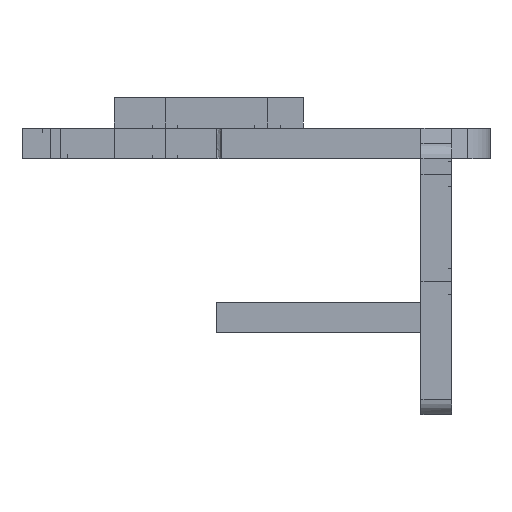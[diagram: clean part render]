
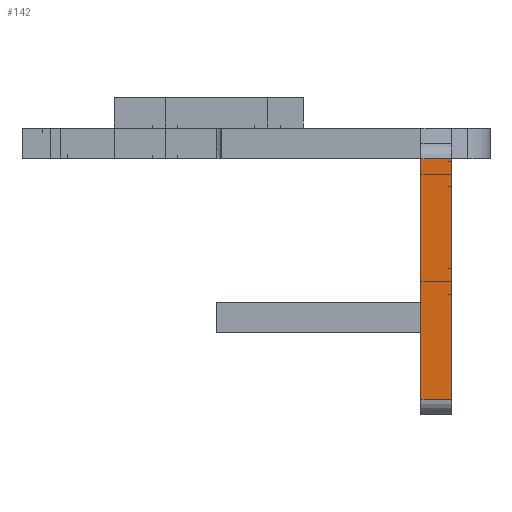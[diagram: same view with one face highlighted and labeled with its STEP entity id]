
A CAD part, left-side view. The second image highlights one B-rep face of the part: STEP entity #142.
In plain terms, the highlighted free-form (B-spline) face has degree [2, 1] with [3, 2] control points.
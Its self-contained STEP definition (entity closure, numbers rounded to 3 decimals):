
#142=ADVANCED_FACE('',(#256),#4215,.T.);
#256=FACE_OUTER_BOUND('',#378,.T.);
#378=EDGE_LOOP('',(#624,#625,#626,#627));
#624=ORIENTED_EDGE('',*,*,#3320,.T.);
#625=ORIENTED_EDGE('',*,*,#3321,.T.);
#626=ORIENTED_EDGE('',*,*,#3322,.T.);
#627=ORIENTED_EDGE('',*,*,#3317,.F.);
#1245=PCURVE('',#4214,#1869);
#1248=PCURVE('',#4215,#1872);
#1249=PCURVE('',#4215,#1873);
#1250=PCURVE('',#4215,#1874);
#1251=PCURVE('',#4215,#1875);
#1255=PCURVE('',#4216,#1879);
#1303=PCURVE('',#4160,#1927);
#1314=PCURVE('',#4161,#1938);
#1869=DEFINITIONAL_REPRESENTATION('',(#2459),#8322);
#1872=DEFINITIONAL_REPRESENTATION('',(#2462),#8322);
#1873=DEFINITIONAL_REPRESENTATION('',(#2463),#8322);
#1874=DEFINITIONAL_REPRESENTATION('',(#2464),#8322);
#1875=DEFINITIONAL_REPRESENTATION('',(#2465),#8322);
#1879=DEFINITIONAL_REPRESENTATION('',(#2469),#8322);
#1927=DEFINITIONAL_REPRESENTATION('',(#3712),#8322);
#1938=DEFINITIONAL_REPRESENTATION('',(#3727),#8322);
#2459=B_SPLINE_CURVE_WITH_KNOTS('',1,(#5289,#5290),.UNSPECIFIED.,.F.,.F.,
(2,2),(0.,6.),.UNSPECIFIED.);
#2462=B_SPLINE_CURVE_WITH_KNOTS('',1,(#5303,#5304),.UNSPECIFIED.,.F.,.F.,
(2,2),(-147.162,-117.898),.UNSPECIFIED.);
#2463=B_SPLINE_CURVE_WITH_KNOTS('',1,(#5307,#5308),.UNSPECIFIED.,.F.,.F.,
(2,2),(0.,6.),.UNSPECIFIED.);
#2464=B_SPLINE_CURVE_WITH_KNOTS('',1,(#5312,#5313),.UNSPECIFIED.,.F.,.F.,
(2,2),(117.898,147.162),.UNSPECIFIED.);
#2465=B_SPLINE_CURVE_WITH_KNOTS('',1,(#5314,#5315),.UNSPECIFIED.,.F.,.F.,
(2,2),(0.,6.),.UNSPECIFIED.);
#2469=B_SPLINE_CURVE_WITH_KNOTS('',1,(#5330,#5331),.UNSPECIFIED.,.F.,.F.,
(2,2),(0.,6.),.UNSPECIFIED.);
#3005=SURFACE_CURVE('',#3663,(#1245,#1251),.PCURVE_S1.);
#3008=SURFACE_CURVE('',#3666,(#1248,#1303),.PCURVE_S1.);
#3009=SURFACE_CURVE('',#3667,(#1249,#1255),.PCURVE_S1.);
#3010=SURFACE_CURVE('',#3668,(#1250,#1314),.PCURVE_S1.);
#3317=EDGE_CURVE('',#3985,#3986,#3005,.T.);
#3320=EDGE_CURVE('',#3985,#3988,#3008,.T.);
#3321=EDGE_CURVE('',#3988,#3989,#3009,.T.);
#3322=EDGE_CURVE('',#3989,#3986,#3010,.T.);
#3663=(
BOUNDED_CURVE()
B_SPLINE_CURVE(1,(#5287,#5288),.UNSPECIFIED.,.F.,.F.)
B_SPLINE_CURVE_WITH_KNOTS((2,2),(0.,6.),.UNSPECIFIED.)
CURVE()
GEOMETRIC_REPRESENTATION_ITEM()
RATIONAL_B_SPLINE_CURVE((1.,1.))
REPRESENTATION_ITEM('')
);
#3666=(
BOUNDED_CURVE()
B_SPLINE_CURVE(2,(#5300,#5301,#5302),.UNSPECIFIED.,.F.,.F.)
B_SPLINE_CURVE_WITH_KNOTS((3,3),(-147.162,-117.898),
 .UNSPECIFIED.)
CURVE()
GEOMETRIC_REPRESENTATION_ITEM()
RATIONAL_B_SPLINE_CURVE((1.,1.,1.))
REPRESENTATION_ITEM('')
);
#3667=(
BOUNDED_CURVE()
B_SPLINE_CURVE(1,(#5305,#5306),.UNSPECIFIED.,.F.,.F.)
B_SPLINE_CURVE_WITH_KNOTS((2,2),(0.,6.),.UNSPECIFIED.)
CURVE()
GEOMETRIC_REPRESENTATION_ITEM()
RATIONAL_B_SPLINE_CURVE((1.,1.))
REPRESENTATION_ITEM('')
);
#3668=(
BOUNDED_CURVE()
B_SPLINE_CURVE(2,(#5309,#5310,#5311),.UNSPECIFIED.,.F.,.F.)
B_SPLINE_CURVE_WITH_KNOTS((3,3),(117.898,147.162),
 .UNSPECIFIED.)
CURVE()
GEOMETRIC_REPRESENTATION_ITEM()
RATIONAL_B_SPLINE_CURVE((1.,1.,1.))
REPRESENTATION_ITEM('')
);
#3712=(
BOUNDED_CURVE()
B_SPLINE_CURVE(2,(#5535,#5536,#5537),.UNSPECIFIED.,.F.,.F.)
B_SPLINE_CURVE_WITH_KNOTS((3,3),(-147.162,-117.898),
 .UNSPECIFIED.)
CURVE()
GEOMETRIC_REPRESENTATION_ITEM()
RATIONAL_B_SPLINE_CURVE((1.,1.,1.))
REPRESENTATION_ITEM('')
);
#3727=(
BOUNDED_CURVE()
B_SPLINE_CURVE(2,(#5604,#5605,#5606),.UNSPECIFIED.,.F.,.F.)
B_SPLINE_CURVE_WITH_KNOTS((3,3),(117.898,147.162),
 .UNSPECIFIED.)
CURVE()
GEOMETRIC_REPRESENTATION_ITEM()
RATIONAL_B_SPLINE_CURVE((1.,1.,1.))
REPRESENTATION_ITEM('')
);
#3985=VERTEX_POINT('',#5249);
#3986=VERTEX_POINT('',#5250);
#3988=VERTEX_POINT('',#5252);
#3989=VERTEX_POINT('',#5253);
#4160=PLANE('',#4294);
#4161=PLANE('',#4295);
#4214=(
BOUNDED_SURFACE()
B_SPLINE_SURFACE(2,1,((#5048,#5049),(#5050,#5051),(#5052,#5053)),
 .UNSPECIFIED.,.F.,.F.,.F.)
B_SPLINE_SURFACE_WITH_KNOTS((3,3),(2,2),(-151.874,-147.162),
(0.,6.),.UNSPECIFIED.)
GEOMETRIC_REPRESENTATION_ITEM()
RATIONAL_B_SPLINE_SURFACE(((1.,1.),(0.707,0.707),
(1.,1.)))
REPRESENTATION_ITEM('')
SURFACE()
);
#4215=(
BOUNDED_SURFACE()
B_SPLINE_SURFACE(2,1,((#5054,#5055),(#5056,#5057),(#5058,#5059)),
 .UNSPECIFIED.,.F.,.F.,.F.)
B_SPLINE_SURFACE_WITH_KNOTS((3,3),(2,2),(-147.162,-117.898),
(0.,6.),.UNSPECIFIED.)
GEOMETRIC_REPRESENTATION_ITEM()
RATIONAL_B_SPLINE_SURFACE(((1.,1.),(1.,1.),(1.,1.)))
REPRESENTATION_ITEM('')
SURFACE()
);
#4216=(
BOUNDED_SURFACE()
B_SPLINE_SURFACE(2,1,((#5060,#5061),(#5062,#5063),(#5064,#5065)),
 .UNSPECIFIED.,.F.,.F.,.F.)
B_SPLINE_SURFACE_WITH_KNOTS((3,3),(2,2),(-117.898,-113.185),
(0.,6.),.UNSPECIFIED.)
GEOMETRIC_REPRESENTATION_ITEM()
RATIONAL_B_SPLINE_SURFACE(((1.,1.),(0.707,0.707),
(1.,1.)))
REPRESENTATION_ITEM('')
SURFACE()
);
#4294=AXIS2_PLACEMENT_3D('',#5174,#4336,$);
#4295=AXIS2_PLACEMENT_3D('',#5175,#4337,$);
#4336=DIRECTION('',(0.,-1.,0.));
#4337=DIRECTION('',(0.,1.,0.));
#5048=CARTESIAN_POINT('',(-723.,29.,-32.));
#5049=CARTESIAN_POINT('',(-723.,35.,-32.));
#5050=CARTESIAN_POINT('',(-726.,29.,-32.));
#5051=CARTESIAN_POINT('',(-726.,35.,-32.));
#5052=CARTESIAN_POINT('',(-726.,29.,-29.));
#5053=CARTESIAN_POINT('',(-726.,35.,-29.));
#5054=CARTESIAN_POINT('',(-726.,29.,-29.));
#5055=CARTESIAN_POINT('',(-726.,35.,-29.));
#5056=CARTESIAN_POINT('',(-726.,29.,-5.5));
#5057=CARTESIAN_POINT('',(-726.,35.,-5.5));
#5058=CARTESIAN_POINT('',(-726.,29.,18.));
#5059=CARTESIAN_POINT('',(-726.,35.,18.));
#5060=CARTESIAN_POINT('',(-726.,29.,18.));
#5061=CARTESIAN_POINT('',(-726.,35.,18.));
#5062=CARTESIAN_POINT('',(-726.,29.,21.));
#5063=CARTESIAN_POINT('',(-726.,35.,21.));
#5064=CARTESIAN_POINT('',(-723.,29.,21.));
#5065=CARTESIAN_POINT('',(-723.,35.,21.));
#5174=CARTESIAN_POINT('',(-696.75,29.,-38.625));
#5175=CARTESIAN_POINT('',(-696.75,35.,-38.625));
#5249=CARTESIAN_POINT('',(-726.,29.,-29.));
#5250=CARTESIAN_POINT('',(-726.,35.,-29.));
#5252=CARTESIAN_POINT('',(-726.,29.,18.));
#5253=CARTESIAN_POINT('',(-726.,35.,18.));
#5287=CARTESIAN_POINT('',(-726.,29.,-29.));
#5288=CARTESIAN_POINT('',(-726.,35.,-29.));
#5289=CARTESIAN_POINT('',(-147.162,0.));
#5290=CARTESIAN_POINT('',(-147.162,6.));
#5300=CARTESIAN_POINT('',(-726.,29.,-29.));
#5301=CARTESIAN_POINT('',(-726.,29.,-5.5));
#5302=CARTESIAN_POINT('',(-726.,29.,18.));
#5303=CARTESIAN_POINT('',(-147.162,0.));
#5304=CARTESIAN_POINT('',(-117.898,0.));
#5305=CARTESIAN_POINT('',(-726.,29.,18.));
#5306=CARTESIAN_POINT('',(-726.,35.,18.));
#5307=CARTESIAN_POINT('',(-117.898,0.));
#5308=CARTESIAN_POINT('',(-117.898,6.));
#5309=CARTESIAN_POINT('',(-726.,35.,18.));
#5310=CARTESIAN_POINT('',(-726.,35.,-5.5));
#5311=CARTESIAN_POINT('',(-726.,35.,-29.));
#5312=CARTESIAN_POINT('',(-117.898,6.));
#5313=CARTESIAN_POINT('',(-147.162,6.));
#5314=CARTESIAN_POINT('',(-147.162,0.));
#5315=CARTESIAN_POINT('',(-147.162,6.));
#5330=CARTESIAN_POINT('',(-117.898,0.));
#5331=CARTESIAN_POINT('',(-117.898,6.));
#5535=CARTESIAN_POINT('',(3.,3.));
#5536=CARTESIAN_POINT('',(26.5,3.));
#5537=CARTESIAN_POINT('',(50.,3.));
#5604=CARTESIAN_POINT('',(3.,50.));
#5605=CARTESIAN_POINT('',(3.,26.5));
#5606=CARTESIAN_POINT('',(3.,3.));
#8322=(
GEOMETRIC_REPRESENTATION_CONTEXT(2)
PARAMETRIC_REPRESENTATION_CONTEXT()
REPRESENTATION_CONTEXT('pspace','')
);
